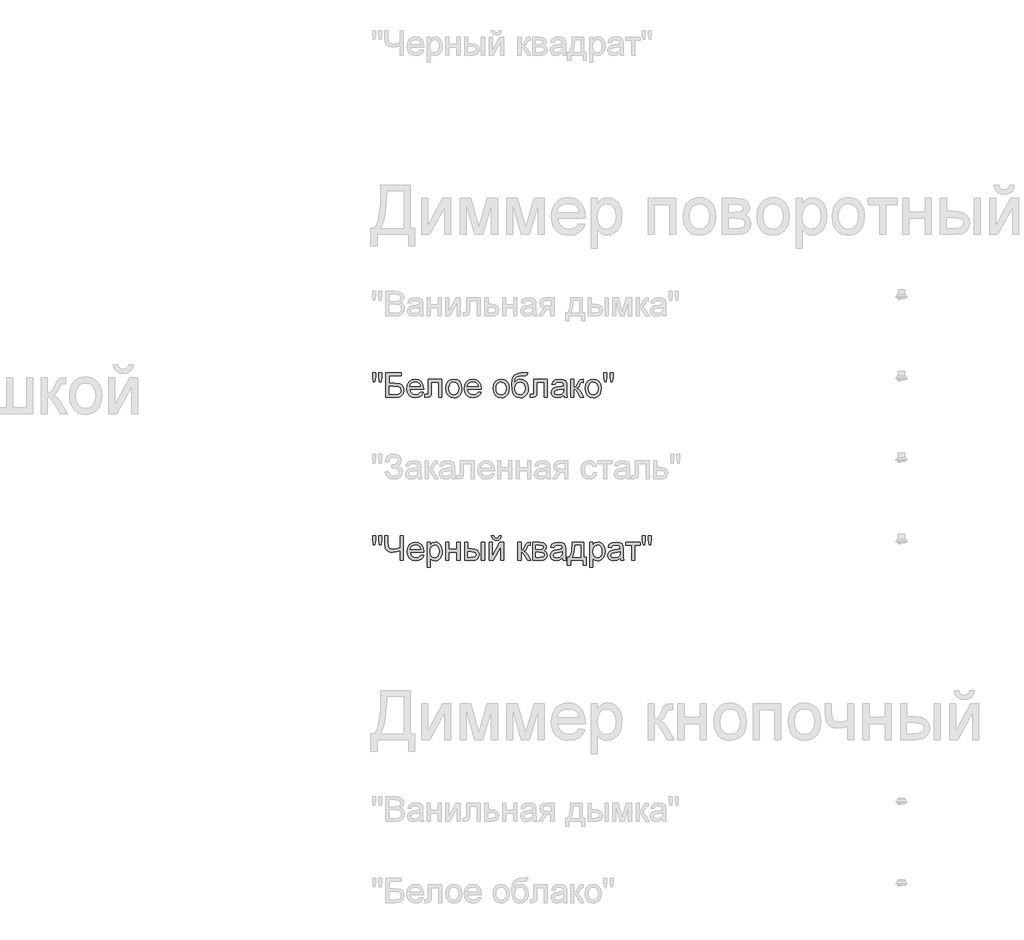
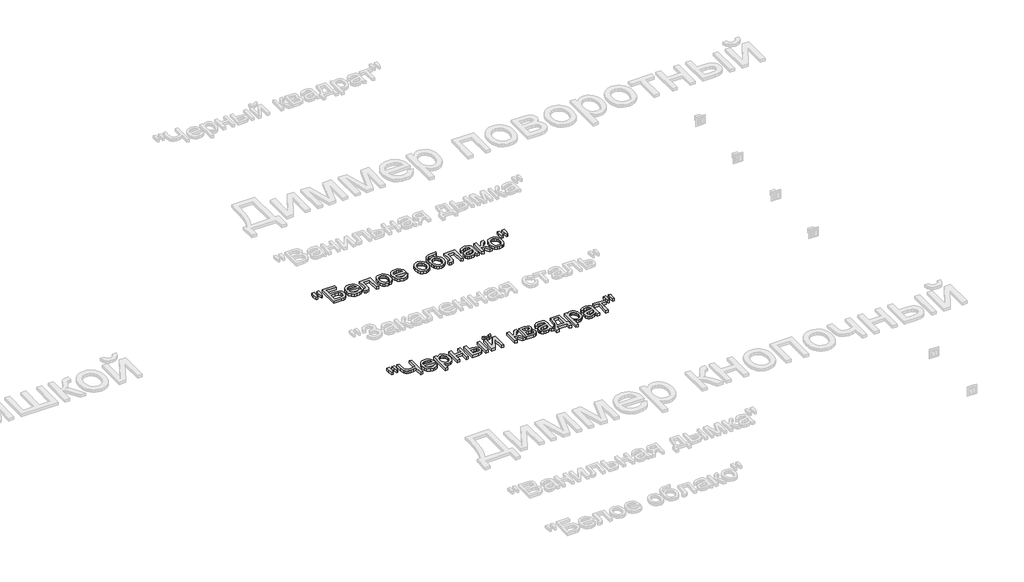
# One storey, part 153 of 168: 2 proxies.
"""IFC4 building model written with IfcOpenShell, lengths in millimetres."""

from ifc_helpers import new_model, si_unit, origin, origin_with_axes, place, context, project, spatial, polyline, outline, extrude, element, save

model = new_model("IFC4")

# Units and contexts
model_context = context("Model", 3, world=origin())
ifc_project = project(units=[si_unit("LENGTHUNIT", "METRE", prefix="MILLI")], contexts=[model_context])

# Site, building, storey
site = spatial("IfcSite", under=ifc_project)
building = spatial("IfcBuilding", under=site)
storey = spatial("IfcBuildingStorey", under=building, Name="Этаж 01", Elevation=0.0)

# Proxies
placement = place(None, origin())
element("IfcBuildingElementProxy", 1, Name="150", ObjectType="150", at=placement, inside=storey, context=model_context, shape_type="SweptSolid", body=[
    extrude(outline(polyline([(71080.1485789, -9051.873446), (71075.550054, -9022.7739802), (71075.550054, -8997.7212163), (71094.3856121, -8997.7212163), (71094.3856121, -9022.7739802), (71090.2653338, -9051.873446), (71080.1485789, -9051.873446)])), origin_with_axes(), (0.0, 0.0, 1.0), 20.0),
    extrude(outline(polyline([(71117.7093306, -9051.873446), (71113.2211703, -9022.7739802), (71113.2211703, -8997.7212163), (71132.0567284, -8997.7212163), (71132.0567284, -9022.7739802), (71127.6421445, -9051.873446), (71117.7093306, -9051.873446)])), origin_with_axes(), (0.0, 0.0, 1.0), 20.0),
    extrude(outline(polyline([(71157.9556209, -8997.7212163), (71252.1334117, -8997.7212163), (71252.1334117, -9016.5567745), (71176.791179, -9016.5567745), (71176.791179, -9061.2912251), (71212.0710624, -9061.2912251), (71243.157091, -9065.1171979), (71253.5589544, -9070.6446248), (71261.6615553, -9079.5749603), (71266.8762826, -9091.0712726), (71268.614525, -9104.2966303), (71263.6665122, -9125.7625448), (71248.8960501, -9142.0781113), (71235.6247071, -9146.823789), (71215.4555767, -9148.4056816), (71157.9556209, -9148.4056816), (71157.9556209, -8997.7212163)]), holes=[polyline([(71176.791179, -9129.5701234), (71217.1478339, -9129.5701234), (71231.4124583, -9128.015822), (71241.6119866, -9123.3529177), (71247.7372218, -9115.5814105), (71249.7789669, -9104.7013005), (71245.1068655, -9089.9492325), (71232.102237, -9082.0765578), (71203.7201411, -9080.1267833), (71176.791179, -9080.1267833), (71176.791179, -9129.5701234)])]), origin_with_axes(), (0.0, 0.0, 1.0), 20.0),
    extrude(outline(polyline([(71369.6349209, -9115.4434548), (71388.1025971, -9117.7978996), (71381.4485315, -9131.713036), (71370.8305374, -9142.1148995), (71356.4877381, -9148.5988196), (71338.6592569, -9150.7601263), (71316.5587461, -9147.0307226), (71299.5534008, -9135.8425114), (71288.710079, -9117.9220597), (71285.0956384, -9093.9959345), (71288.7468672, -9069.2650674), (71299.7005536, -9050.7698), (71316.4759726, -9039.2366995), (71337.5923991, -9035.3923327), (71358.0512366, -9039.2275025), (71374.3989927, -9050.7330118), (71385.1181544, -9069.191491), (71388.6912083, -9093.8855699), (71388.5808437, -9098.9623414), (71303.9311966, -9098.9623414), (71307.1915508, -9113.0614189), (71314.7653213, -9123.4264941), (71325.6960151, -9129.8000497), (71339.0271389, -9131.9245682), (71357.4948151, -9127.9882308), (71369.6349209, -9115.4434548)]), holes=[polyline([(71303.9311966, -9080.1267833), (71369.8556501, -9080.1267833), (71367.3080673, -9070.1755753), (71362.3140692, -9063.0570587), (71351.3327917, -9056.4351828), (71337.5188227, -9054.2278908), (71324.8222954, -9055.9891259), (71314.3238629, -9061.272831), (71307.0260039, -9069.5087892), (71303.9311966, -9080.1267833)])]), origin_with_axes(), (0.0, 0.0, 1.0), 20.0),
    extrude(outline(polyline([(71416.9445455, -9037.7467774), (71501.7045572, -9037.7467774), (71501.7045572, -9148.295317), (71482.868999, -9148.295317), (71482.868999, -9056.5823356), (71435.7801036, -9056.5823356), (71435.7801036, -9109.3734019), (71434.5109108, -9133.72719), (71427.539547, -9144.0094917), (71411.0584336, -9148.4056816), (71395.7545426, -9147.4491884), (71395.7545426, -9129.5701234), (71404.1790403, -9129.5701234), (71412.6955084, -9128.4112951), (71416.0984169, -9124.7324752), (71416.9445455, -9108.3065441), (71416.9445455, -9037.7467774)])), origin_with_axes(), (0.0, 0.0, 1.0), 20.0),
    extrude(outline(polyline([(71525.2490049, -9093.0762295), (71529.323298, -9066.3955878), (71541.5461773, -9047.6428031), (71556.6477332, -9038.4549503), (71574.7291332, -9035.3923327), (71594.516586, -9039.1217364), (71610.3217163, -9050.3099476), (71620.6821929, -9068.0740494), (71624.1356852, -9091.5311251), (71622.6089749, -9110.5598213), (71618.0288441, -9125.0451749), (71610.5286499, -9135.8930952), (71600.2417496, -9144.0094917), (71588.0234688, -9149.0724677), (71574.7291332, -9150.7601263), (71554.7025571, -9147.0445182), (71538.915821, -9135.8976937), (71528.6657089, -9117.7611114), (71525.2490049, -9093.0762295)]), holes=[polyline([(71544.084563, -9093.0394413), (71546.2642638, -9110.0861732), (71552.8033663, -9122.2308776), (71562.6442097, -9129.5011455), (71574.7291332, -9131.9245682), (71586.7588745, -9129.48735), (71596.5813237, -9122.1756953), (71603.1204262, -9109.8700426), (71605.300127, -9092.4508301), (71603.1066306, -9075.9007388), (71596.5261414, -9063.9215814), (71586.6898966, -9056.6513134), (71574.7291332, -9054.2278908), (71562.6442097, -9056.6421164), (71552.8033663, -9063.8847932), (71546.2642638, -9076.0019064), (71544.084563, -9093.0394413)])]), origin_with_axes(), (0.0, 0.0, 1.0), 20.0),
    extrude(outline(polyline([(71722.8016363, -9115.4434548), (71741.2693124, -9117.7978996), (71734.6152469, -9131.713036), (71723.9972528, -9142.1148995), (71709.6544535, -9148.5988196), (71691.8259723, -9150.7601263), (71669.7254614, -9147.0307226), (71652.7201162, -9135.8425114), (71641.8767944, -9117.9220597), (71638.2623538, -9093.9959345), (71641.9135826, -9069.2650674), (71652.867269, -9050.7698), (71669.642688, -9039.2366995), (71690.7591145, -9035.3923327), (71711.217952, -9039.2275025), (71727.5657081, -9050.7330118), (71738.2848698, -9069.191491), (71741.8579236, -9093.8855699), (71741.747559, -9098.9623414), (71657.0979119, -9098.9623414), (71660.3582661, -9113.0614189), (71667.9320367, -9123.4264941), (71678.8627305, -9129.8000497), (71692.1938543, -9131.9245682), (71710.6615304, -9127.9882308), (71722.8016363, -9115.4434548)]), holes=[polyline([(71657.0979119, -9080.1267833), (71723.0223655, -9080.1267833), (71720.4747827, -9070.1755753), (71715.4807846, -9063.0570587), (71704.499507, -9056.4351828), (71690.6855381, -9054.2278908), (71677.9890107, -9055.9891259), (71667.4905783, -9061.272831), (71660.1927192, -9069.5087892), (71657.0979119, -9080.1267833)])]), origin_with_axes(), (0.0, 0.0, 1.0), 20.0),
    extrude(outline(polyline([(71814.8457115, -9093.0762295), (71818.9200046, -9066.3955878), (71831.1428839, -9047.6428031), (71846.2444398, -9038.4549503), (71864.3258398, -9035.3923327), (71884.1132926, -9039.1217364), (71899.9184229, -9050.3099476), (71910.2788995, -9068.0740494), (71913.7323918, -9091.5311251), (71912.2056815, -9110.5598213), (71907.6255507, -9125.0451749), (71900.1253565, -9135.8930952), (71889.8384562, -9144.0094917), (71877.6201754, -9149.0724677), (71864.3258398, -9150.7601263), (71844.2992637, -9147.0445182), (71828.5125276, -9135.8976937), (71818.2624155, -9117.7611114), (71814.8457115, -9093.0762295)]), holes=[polyline([(71833.6812696, -9093.0394413), (71835.8609704, -9110.0861732), (71842.4000729, -9122.2308776), (71852.2409163, -9129.5011455), (71864.3258398, -9131.9245682), (71876.3555811, -9129.48735), (71886.1780303, -9122.1756953), (71892.7171328, -9109.8700426), (71894.8968336, -9092.4508301), (71892.7033372, -9075.9007388), (71886.122848, -9063.9215814), (71876.2866032, -9056.6513134), (71864.3258398, -9054.2278908), (71852.2409163, -9056.6421164), (71842.4000729, -9063.8847932), (71835.8609704, -9076.0019064), (71833.6812696, -9093.0394413)])]), origin_with_axes(), (0.0, 0.0, 1.0), 20.0),
    extrude(outline(polyline([(72012.6190721, -8995.3667716), (72029.1001855, -8995.3667716), (72024.2441431, -9010.0636573), (72014.6424231, -9015.3795521), (71991.576222, -9016.5567745), (71960.5085875, -9020.897782), (71953.3808738, -9026.5447707), (71948.5892108, -9034.8037215), (71944.560903, -9059.4150269), (71960.8764695, -9041.3888092), (71970.7954878, -9036.8914518), (71981.9009255, -9035.3923327), (72001.4998388, -9039.2045098), (72017.401538, -9050.6410414), (72027.9413572, -9068.5798871), (72031.4546302, -9091.8990071), (72029.7117893, -9109.8792396), (72024.4832664, -9124.3094109), (72007.9469707, -9143.8623389), (71996.6529935, -9149.0356795), (71981.9009255, -9150.7601263), (71964.9001788, -9148.5390388), (71952.1576662, -9141.8757762), (71942.7812738, -9131.7498242), (71935.8788879, -9119.1406689), (71931.6298508, -9100.1533594), (71930.2135052, -9070.8929452), (71933.786559, -9034.7531377), (71944.5057207, -9012.7124076), (71962.6377045, -9001.4690142), (71988.449225, -8997.7212163), (72009.4184987, -8997.2981521), (72012.6190721, -8995.3667716)]), holes=[polyline([(72012.6190721, -9091.3103959), (72010.577327, -9076.48935), (72004.4520918, -9064.6205572), (71994.6112484, -9056.8260574), (71981.4226789, -9054.2278908), (71967.6730893, -9056.9732102), (71957.473561, -9065.2091684), (71951.1551877, -9078.0344544), (71949.0490633, -9094.5477575), (71951.3759169, -9110.5552228), (71958.3564778, -9122.304454), (71968.7491442, -9129.5195396), (71981.3123143, -9131.9245682), (71993.9398638, -9129.1424606), (72003.937057, -9120.7961378), (72010.4485683, -9107.8604872), (72012.6190721, -9091.3103959)])]), origin_with_axes(), (0.0, 0.0, 1.0), 20.0),
    extrude(outline(polyline([(72064.416857, -9037.7467774), (72149.1768687, -9037.7467774), (72149.1768687, -9148.295317), (72130.3413105, -9148.295317), (72130.3413105, -9056.5823356), (72083.2524152, -9056.5823356), (72083.2524152, -9109.3734019), (72081.9832223, -9133.72719), (72075.0118585, -9144.0094917), (72058.5307451, -9148.4056816), (72043.2268541, -9147.4491884), (72043.2268541, -9129.5701234), (72051.6513518, -9129.5701234), (72060.16782, -9128.4112951), (72063.5707284, -9124.7324752), (72064.416857, -9108.3065441), (72064.416857, -9037.7467774)])), origin_with_axes(), (0.0, 0.0, 1.0), 20.0),
    extrude(outline(polyline([(72248.063549, -9134.279013), (72229.7982079, -9147.0445182), (72209.6198805, -9150.7601263), (72193.8791296, -9148.5252432), (72182.2678542, -9141.8205939), (72175.1079508, -9131.6394596), (72172.7213164, -9118.975122), (72176.3265599, -9104.0759012), (72185.7995213, -9093.2601705), (72198.9880908, -9087.079753), (72215.2852632, -9084.2470616), (72247.9531844, -9077.7723385), (72248.063549, -9073.5784838), (72246.766765, -9065.1723802), (72242.8764129, -9059.6725443), (72234.1760037, -9055.5890542), (72222.0542919, -9054.2278908), (72202.9980046, -9057.8515285), (72193.9113193, -9070.7090042), (72175.0757612, -9068.3545594), (72183.2243473, -9049.9604597), (72199.6318843, -9039.1815172), (72224.4823131, -9035.3923327), (72247.3093909, -9038.7400588), (72260.2036548, -9047.1461624), (72265.9794022, -9059.9300617), (72266.8991071, -9076.4111751), (72266.8991071, -9099.8452582), (72267.8556003, -9132.5683617), (72271.6079967, -9148.4056816), (72252.7724385, -9148.4056816), (72248.063549, -9134.279013)]), holes=[polyline([(72248.063549, -9096.6078966), (72217.6764962, -9102.383644), (72201.4712943, -9105.4370645), (72194.1320485, -9110.4034715), (72191.5568745, -9117.6507468), (72197.167075, -9127.841078), (72213.6297942, -9131.9245682), (72232.6860816, -9127.4180137), (72244.9733402, -9116.5103126), (72247.9531844, -9101.9421856), (72248.063549, -9096.6078966)])]), origin_with_axes(), (0.0, 0.0, 1.0), 20.0),
    extrude(outline(polyline([(72292.7979996, -9037.7467774), (72311.6335578, -9037.7467774), (72311.6335578, -9084.8356728), (72324.2519102, -9081.4511584), (72334.5893943, -9061.7326835), (72343.1794388, -9044.7181412), (72350.7578079, -9039.1815172), (72364.5349887, -9037.7467774), (72368.1402322, -9037.7467774), (72368.1402322, -9056.6927002), (72363.0634607, -9056.5823356), (72353.8664108, -9058.5688983), (72347.3916877, -9070.9665216), (72339.7949245, -9084.3758203), (72329.1447407, -9090.9425139), (72341.0273292, -9098.2725627), (72352.6891884, -9113.7144094), (72372.8491218, -9148.4056816), (72351.4383896, -9148.4056816), (72331.6831265, -9114.4501734), (72321.7503126, -9100.0843815), (72311.6335578, -9096.6078966), (72311.6335578, -9148.4056816), (72292.7979996, -9148.4056816), (72292.7979996, -9037.7467774)])), origin_with_axes(), (0.0, 0.0, 1.0), 20.0),
    extrude(outline(polyline([(72379.9124561, -9093.0762295), (72383.9867492, -9066.3955878), (72396.2096285, -9047.6428031), (72411.3111844, -9038.4549503), (72429.3925844, -9035.3923327), (72449.1800372, -9039.1217364), (72464.9851674, -9050.3099476), (72475.3456441, -9068.0740494), (72478.7991364, -9091.5311251), (72477.2724261, -9110.5598213), (72472.6922952, -9125.0451749), (72465.1921011, -9135.8930952), (72454.9052008, -9144.0094917), (72442.68692, -9149.0724677), (72429.3925844, -9150.7601263), (72409.3660083, -9147.0445182), (72393.5792722, -9135.8976937), (72383.3291601, -9117.7611114), (72379.9124561, -9093.0762295)]), holes=[polyline([(72398.7480142, -9093.0394413), (72400.927715, -9110.0861732), (72407.4668175, -9122.2308776), (72417.3076609, -9129.5011455), (72429.3925844, -9131.9245682), (72441.4223257, -9129.48735), (72451.2447749, -9122.1756953), (72457.7838774, -9109.8700426), (72459.9635782, -9092.4508301), (72457.7700818, -9075.9007388), (72451.1895926, -9063.9215814), (72441.3533478, -9056.6513134), (72429.3925844, -9054.2278908), (72417.3076609, -9056.6421164), (72407.4668175, -9063.8847932), (72400.927715, -9076.0019064), (72398.7480142, -9093.0394413)])]), origin_with_axes(), (0.0, 0.0, 1.0), 20.0),
    extrude(outline(polyline([(72499.8787747, -9051.873446), (72495.2802498, -9022.7739802), (72495.2802498, -8997.7212163), (72514.1158079, -8997.7212163), (72514.1158079, -9022.7739802), (72509.9955296, -9051.873446), (72499.8787747, -9051.873446)])), origin_with_axes(), (0.0, 0.0, 1.0), 20.0),
    extrude(outline(polyline([(72537.4395264, -9051.873446), (72532.9513661, -9022.7739802), (72532.9513661, -8997.7212163), (72551.7869242, -8997.7212163), (72551.7869242, -9022.7739802), (72547.3723403, -9051.873446), (72537.4395264, -9051.873446)])), origin_with_axes(), (0.0, 0.0, 1.0), 20.0),
])
element("IfcBuildingElementProxy", 2, Name="150", ObjectType="150", at=placement, inside=storey, context=model_context, shape_type="SweptSolid", body=[
    extrude(outline(polyline([(71080.1485789, -10051.873446), (71075.550054, -10022.7739802), (71075.550054, -9997.7212163), (71094.3856121, -9997.7212163), (71094.3856121, -10022.7739802), (71090.2653338, -10051.873446), (71080.1485789, -10051.873446)])), origin_with_axes(), (0.0, 0.0, 1.0), 20.0),
    extrude(outline(polyline([(71117.7093306, -10051.873446), (71113.2211703, -10022.7739802), (71113.2211703, -9997.7212163), (71132.0567284, -9997.7212163), (71132.0567284, -10022.7739802), (71127.6421445, -10051.873446), (71117.7093306, -10051.873446)])), origin_with_axes(), (0.0, 0.0, 1.0), 20.0),
    extrude(outline(polyline([(71263.9056355, -10148.4056816), (71245.0700773, -10148.4056816), (71245.0700773, -10088.0730344), (71220.0908899, -10096.2400147), (71198.4226404, -10098.9623414), (71183.7395502, -10097.0999388), (71170.886673, -10091.512731), (71160.926268, -10083.0606422), (71154.9205944, -10072.6035965), (71150.8922866, -10042.6028198), (71150.8922866, -9997.7212163), (71169.7278447, -9997.7212163), (71169.7278447, -10040.064434), (71171.990319, -10060.4313009), (71178.7777418, -10072.3828673), (71188.7381468, -10078.1908043), (71200.5195677, -10080.1267833), (71222.2521966, -10077.7907326), (71245.0700773, -10070.7825806), (71245.0700773, -9997.7212163), (71263.9056355, -9997.7212163), (71263.9056355, -10148.4056816)])), origin_with_axes(), (0.0, 0.0, 1.0), 20.0),
    extrude(outline(polyline([(71371.9893657, -10115.4434548), (71390.4570418, -10117.7978996), (71383.8029763, -10131.713036), (71373.1849822, -10142.1148995), (71358.8421829, -10148.5988196), (71341.0137017, -10150.7601263), (71318.9131908, -10147.0307226), (71301.9078456, -10135.8425114), (71291.0645238, -10117.9220597), (71287.4500832, -10093.9959345), (71291.101312, -10069.2650674), (71302.0549984, -10050.7698), (71318.8304174, -10039.2366995), (71339.9468439, -10035.3923327), (71360.4056814, -10039.2275025), (71376.7534375, -10050.7330118), (71387.4725992, -10069.191491), (71391.045653, -10093.8855699), (71390.9352884, -10098.9623414), (71306.2856413, -10098.9623414), (71309.5459955, -10113.0614189), (71317.1197661, -10123.4264941), (71328.0504599, -10129.8000497), (71341.3815837, -10131.9245682), (71359.8492598, -10127.9882308), (71371.9893657, -10115.4434548)]), holes=[polyline([(71306.2856413, -10080.1267833), (71372.2100949, -10080.1267833), (71369.6625121, -10070.1755753), (71364.668514, -10063.0570587), (71353.6872364, -10056.4351828), (71339.8732675, -10054.2278908), (71327.1767401, -10055.9891259), (71316.6783077, -10061.272831), (71309.3804486, -10069.5087892), (71306.2856413, -10080.1267833)])]), origin_with_axes(), (0.0, 0.0, 1.0), 20.0),
    extrude(outline(polyline([(71409.8812112, -10190.7856874), (71409.8812112, -10037.7467774), (71428.7167693, -10037.7467774), (71428.7167693, -10056.2144536), (71441.739792, -10040.5978629), (71459.3245513, -10035.3923327), (71472.0624654, -10037.2133485), (71483.2000928, -10042.6763962), (71492.268384, -10051.4503817), (71498.7982894, -10063.2042115), (71504.0590019, -10092.2301009), (71502.5736784, -10108.3387338), (71498.1177077, -10122.7459124), (71490.8336442, -10134.7204713), (71480.8640422, -10143.5312451), (71469.2527667, -10148.952906), (71457.043683, -10150.7601263), (71440.6545401, -10145.9224781), (71428.7167693, -10133.6904018), (71428.7167693, -10190.7856874), (71409.8812112, -10190.7856874)]), holes=[polyline([(71428.7167693, -10093.9591463), (71430.7539159, -10110.8449299), (71436.8653555, -10122.6539419), (71445.8830629, -10129.6069116), (71456.6390128, -10131.9245682), (71467.5697066, -10129.5241382), (71476.8173402, -10122.3228481), (71483.1219179, -10110.0815747), (71485.2234438, -10092.5611947), (71483.1725017, -10075.7673816), (71477.0196753, -10063.7928227), (71468.0157635, -10056.6191238), (71457.411565, -10054.2278908), (71446.7659797, -10056.7708751), (71437.4171785, -10064.399828), (71430.8918716, -10076.8756261), (71428.7167693, -10093.9591463)])]), origin_with_axes(), (0.0, 0.0, 1.0), 20.0),
    extrude(outline(polyline([(71525.2490049, -10037.7467774), (71544.084563, -10037.7467774), (71544.084563, -10080.1267833), (71593.5279032, -10080.1267833), (71593.5279032, -10037.7467774), (71612.3634613, -10037.7467774), (71612.3634613, -10148.4056816), (71593.5279032, -10148.4056816), (71593.5279032, -10098.9623414), (71544.084563, -10098.9623414), (71544.084563, -10148.4056816), (71525.2490049, -10148.4056816), (71525.2490049, -10037.7467774)])), origin_with_axes(), (0.0, 0.0, 1.0), 20.0),
    extrude(outline(polyline([(71744.2123684, -10037.7467774), (71763.0479266, -10037.7467774), (71763.0479266, -10148.4056816), (71744.2123684, -10148.4056816), (71744.2123684, -10037.7467774)])), origin_with_axes(), (0.0, 0.0, 1.0), 20.0),
    extrude(outline(polyline([(71640.6167986, -10037.7467774), (71659.4523567, -10037.7467774), (71659.4523567, -10077.7723385), (71682.739287, -10077.7723385), (71702.8670307, -10080.1313818), (71717.780047, -10087.2085117), (71727.0092866, -10098.433511), (71730.0856998, -10113.2361628), (71727.5059273, -10126.7144394), (71719.7666098, -10138.0865916), (71706.3619096, -10145.8259091), (71686.785989, -10148.4056816), (71640.6167986, -10148.4056816), (71640.6167986, -10037.7467774)]), holes=[polyline([(71659.4523567, -10129.5701234), (71678.8029497, -10129.5701234), (71703.7821371, -10125.615392), (71709.3831405, -10120.552416), (71711.2501416, -10113.272951), (71705.7135176, -10101.6846682), (71696.8337659, -10097.8770895), (71681.267759, -10096.6078966), (71659.4523567, -10096.6078966), (71659.4523567, -10129.5701234)])]), origin_with_axes(), (0.0, 0.0, 1.0), 20.0),
    extrude(outline(polyline([(71791.3012638, -10037.7467774), (71810.1368219, -10037.7467774), (71810.1368219, -10122.1389071), (71856.4163769, -10037.7467774), (71880.770165, -10037.7467774), (71880.770165, -10148.4056816), (71861.9346069, -10148.4056816), (71861.9346069, -10064.5285867), (71815.9493575, -10148.4056816), (71791.3012638, -10148.4056816), (71791.3012638, -10037.7467774)])), origin_with_axes(), (0.0, 0.0, 1.0), 20.0),
    extrude(outline(polyline([(71852.5168278, -9997.7212163), (71866.6434964, -9997.7212163), (71863.6038714, -10009.7831473), (71857.5016288, -10018.672096), (71848.6126801, -10024.1489392), (71837.2129368, -10025.9745536), (71824.8429047, -10024.1627347), (71815.2503817, -10018.7272783), (71808.6928851, -10009.8521251), (71805.4279324, -9997.7212163), (71819.554601, -9997.7212163), (71824.8521017, -10008.3346119), (71835.5206796, -10011.847885), (71847.219327, -10008.4449765), (71852.5168278, -9997.7212163)])), origin_with_axes(), (0.0, 0.0, 1.0), 20.0),
    extrude(outline(polyline([(71967.8846215, -10037.7467774), (71986.7201796, -10037.7467774), (71986.7201796, -10084.8356728), (71999.3385321, -10081.4511584), (72009.6760161, -10061.7326835), (72018.2660607, -10044.7181412), (72025.8444298, -10039.1815172), (72039.6216105, -10037.7467774), (72043.2268541, -10037.7467774), (72043.2268541, -10056.6927002), (72038.1500825, -10056.5823356), (72028.9530327, -10058.5688983), (72022.4783096, -10070.9665216), (72014.8815464, -10084.3758203), (72004.2313626, -10090.9425139), (72016.113951, -10098.2725627), (72027.7758103, -10113.7144094), (72047.9357436, -10148.4056816), (72026.5250115, -10148.4056816), (72006.7697484, -10114.4501734), (71996.8369345, -10100.0843815), (71986.7201796, -10096.6078966), (71986.7201796, -10148.4056816), (71967.8846215, -10148.4056816), (71967.8846215, -10037.7467774)])), origin_with_axes(), (0.0, 0.0, 1.0), 20.0),
    extrude(outline(polyline([(72059.7079675, -10037.7467774), (72101.2050565, -10037.7467774), (72123.9585579, -10040.2667691), (72136.7608514, -10049.5006072), (72142.1135344, -10065.5954445), (72138.8761728, -10078.6736494), (72129.1273, -10087.999458), (72141.7824406, -10098.2081833), (72146.8224239, -10115.9584896), (72143.6310476, -10130.3150845), (72136.0434815, -10140.4226423), (72124.0321343, -10146.4099217), (72107.569415, -10148.4056816), (72059.7079675, -10148.4056816), (72059.7079675, -10037.7467774)]), holes=[polyline([(72078.5435256, -10080.1267833), (72097.1583546, -10080.1267833), (72112.5174279, -10079.1702901), (72119.9854324, -10075.3443173), (72123.2779762, -10068.4281358), (72121.8340394, -10062.8087383), (72117.5022289, -10059.1942977), (72097.7469658, -10056.5823356), (72078.5435256, -10056.5823356), (72078.5435256, -10080.1267833)]), polyline([(72078.5435256, -10129.5701234), (72101.6465149, -10129.5701234), (72122.137542, -10126.167215), (72126.377382, -10121.5273033), (72127.9868658, -10114.4133852), (72124.7678983, -10105.345094), (72116.3801888, -10100.0659874), (72099.8071049, -10098.9623414), (72078.5435256, -10098.9623414), (72078.5435256, -10129.5701234)])]), origin_with_axes(), (0.0, 0.0, 1.0), 20.0),
    extrude(outline(polyline([(72241.0002147, -10134.279013), (72222.7348736, -10147.0445182), (72202.5565462, -10150.7601263), (72186.8157953, -10148.5252432), (72175.2045198, -10141.8205939), (72168.0446165, -10131.6394596), (72165.6579821, -10118.975122), (72169.2632256, -10104.0759012), (72178.736187, -10093.2601705), (72191.9247565, -10087.079753), (72208.2219289, -10084.2470616), (72240.8898501, -10077.7723385), (72241.0002147, -10073.5784838), (72239.7034307, -10065.1723802), (72235.8130786, -10059.6725443), (72227.1126694, -10055.5890542), (72214.9909576, -10054.2278908), (72195.9346703, -10057.8515285), (72186.847985, -10070.7090042), (72168.0124268, -10068.3545594), (72176.161013, -10049.9604597), (72192.56855, -10039.1815172), (72217.4189788, -10035.3923327), (72240.2460566, -10038.7400588), (72253.1403205, -10047.1461624), (72258.9160679, -10059.9300617), (72259.8357728, -10076.4111751), (72259.8357728, -10099.8452582), (72260.792266, -10132.5683617), (72264.5446624, -10148.4056816), (72245.7091042, -10148.4056816), (72241.0002147, -10134.279013)]), holes=[polyline([(72241.0002147, -10096.6078966), (72210.6131619, -10102.383644), (72194.40796, -10105.4370645), (72187.0687142, -10110.4034715), (72184.4935402, -10117.6507468), (72190.1037407, -10127.841078), (72206.5664599, -10131.9245682), (72225.6227473, -10127.4180137), (72237.9100059, -10116.5103126), (72240.8898501, -10101.9421856), (72241.0002147, -10096.6078966)])]), origin_with_axes(), (0.0, 0.0, 1.0), 20.0),
    extrude(outline(polyline([(72302.2157787, -10037.7467774), (72372.8491218, -10037.7467774), (72372.8491218, -10129.5701234), (72386.9757904, -10129.5701234), (72386.9757904, -10179.0134636), (72368.1402322, -10179.0134636), (72368.1402322, -10148.4056816), (72290.4435548, -10148.4056816), (72290.4435548, -10179.0134636), (72271.6079967, -10179.0134636), (72271.6079967, -10129.5701234), (72283.3802205, -10129.5701234), (72291.9380754, -10114.105284), (72297.9299534, -10093.6464466), (72302.2157787, -10037.7467774)]), holes=[polyline([(72318.6968921, -10056.5823356), (72314.2823081, -10099.4957703), (72304.5702235, -10129.5701234), (72354.0135636, -10129.5701234), (72354.0135636, -10056.5823356), (72318.6968921, -10056.5823356)])]), origin_with_axes(), (0.0, 0.0, 1.0), 20.0),
    extrude(outline(polyline([(72408.1657933, -10190.7856874), (72408.1657933, -10037.7467774), (72427.0013514, -10037.7467774), (72427.0013514, -10056.2144536), (72440.0243741, -10040.5978629), (72457.6091334, -10035.3923327), (72470.3470475, -10037.2133485), (72481.4846749, -10042.6763962), (72490.5529661, -10051.4503817), (72497.0828715, -10063.2042115), (72502.3435841, -10092.2301009), (72500.8582605, -10108.3387338), (72496.4022898, -10122.7459124), (72489.1182263, -10134.7204713), (72479.1486243, -10143.5312451), (72467.5373488, -10148.952906), (72455.3282651, -10150.7601263), (72438.9391222, -10145.9224781), (72427.0013514, -10133.6904018), (72427.0013514, -10190.7856874), (72408.1657933, -10190.7856874)]), holes=[polyline([(72427.0013514, -10093.9591463), (72429.038498, -10110.8449299), (72435.1499376, -10122.6539419), (72444.167645, -10129.6069116), (72454.9235949, -10131.9245682), (72465.8542887, -10129.5241382), (72475.1019223, -10122.3228481), (72481.4065, -10110.0815747), (72483.5080259, -10092.5611947), (72481.4570838, -10075.7673816), (72475.3042574, -10063.7928227), (72466.3003456, -10056.6191238), (72455.6961471, -10054.2278908), (72445.0505618, -10056.7708751), (72435.7017606, -10064.399828), (72429.1764537, -10076.8756261), (72427.0013514, -10093.9591463)])]), origin_with_axes(), (0.0, 0.0, 1.0), 20.0),
    extrude(outline(polyline([(72594.1669301, -10134.279013), (72575.901589, -10147.0445182), (72555.7232616, -10150.7601263), (72539.9825107, -10148.5252432), (72528.3712352, -10141.8205939), (72521.2113319, -10131.6394596), (72518.8246974, -10118.975122), (72522.429941, -10104.0759012), (72531.9029024, -10093.2601705), (72545.0914719, -10087.079753), (72561.3886443, -10084.2470616), (72594.0565655, -10077.7723385), (72594.1669301, -10073.5784838), (72592.870146, -10065.1723802), (72588.9797939, -10059.6725443), (72580.2793847, -10055.5890542), (72568.157673, -10054.2278908), (72549.1013856, -10057.8515285), (72540.0147004, -10070.7090042), (72521.1791422, -10068.3545594), (72529.3277284, -10049.9604597), (72545.7352654, -10039.1815172), (72570.5856942, -10035.3923327), (72593.412772, -10038.7400588), (72606.3070359, -10047.1461624), (72612.0827832, -10059.9300617), (72613.0024882, -10076.4111751), (72613.0024882, -10099.8452582), (72613.9589814, -10132.5683617), (72617.7113777, -10148.4056816), (72598.8758196, -10148.4056816), (72594.1669301, -10134.279013)]), holes=[polyline([(72594.1669301, -10096.6078966), (72563.7798773, -10102.383644), (72547.5746754, -10105.4370645), (72540.2354296, -10110.4034715), (72537.6602556, -10117.6507468), (72543.270456, -10127.841078), (72559.7331753, -10131.9245682), (72578.7894627, -10127.4180137), (72591.0767213, -10116.5103126), (72594.0565655, -10101.9421856), (72594.1669301, -10096.6078966)])]), origin_with_axes(), (0.0, 0.0, 1.0), 20.0),
    extrude(outline(polyline([(72629.4836016, -10037.7467774), (72718.9525028, -10037.7467774), (72718.9525028, -10056.5823356), (72683.6358313, -10056.5823356), (72683.6358313, -10148.4056816), (72664.8002731, -10148.4056816), (72664.8002731, -10056.5823356), (72629.4836016, -10056.5823356), (72629.4836016, -10037.7467774)])), origin_with_axes(), (0.0, 0.0, 1.0), 20.0),
    extrude(outline(polyline([(72735.3232516, -10051.873446), (72730.7247267, -10022.7739802), (72730.7247267, -9997.7212163), (72749.5602848, -9997.7212163), (72749.5602848, -10022.7739802), (72745.4400065, -10051.873446), (72735.3232516, -10051.873446)])), origin_with_axes(), (0.0, 0.0, 1.0), 20.0),
    extrude(outline(polyline([(72772.8840033, -10051.873446), (72768.395843, -10022.7739802), (72768.395843, -9997.7212163), (72787.2314011, -9997.7212163), (72787.2314011, -10022.7739802), (72782.8168172, -10051.873446), (72772.8840033, -10051.873446)])), origin_with_axes(), (0.0, 0.0, 1.0), 20.0),
])

save(model, "model.ifc")
